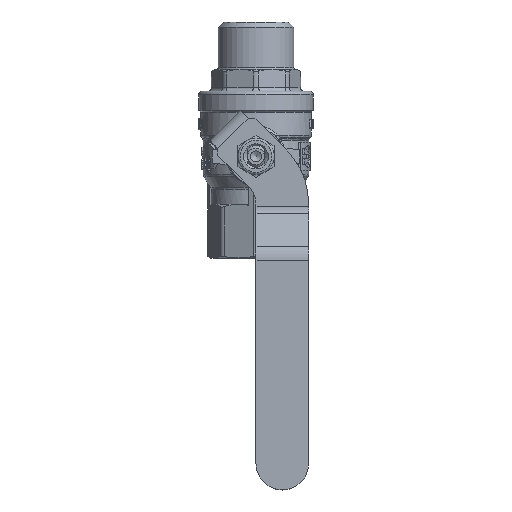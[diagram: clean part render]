
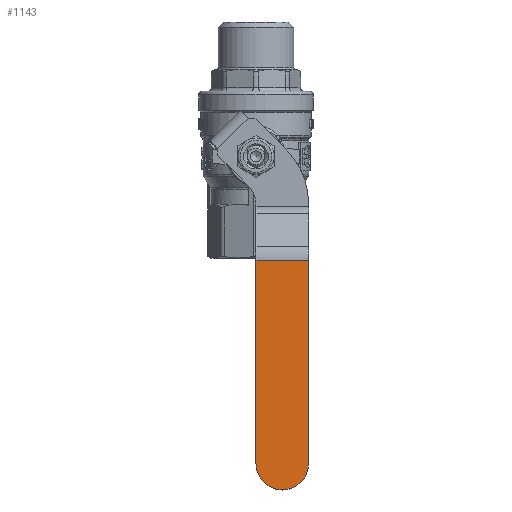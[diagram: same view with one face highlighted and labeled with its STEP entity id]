
A CAD part, top view. The second image highlights one B-rep face of the part: STEP entity #1143.
In plain terms, the highlighted planar face has unit normal (0, 0, 1).
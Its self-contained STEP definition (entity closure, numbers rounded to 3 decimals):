
#1143=ADVANCED_FACE('',(#9416),#9418,.T.);
#9416=FACE_BOUND('',#9417,.T.);
#9417=EDGE_LOOP('',(#17381,#17382,#17383,#17384));
#9418=PLANE('',#9419);
#9419=AXIS2_PLACEMENT_3D('',#9420,#9421,#9422);
#9420=CARTESIAN_POINT('',(0.,-11.525,43.177));
#9421=DIRECTION('',(0.,0.,1.));
#9422=DIRECTION('',(0.,-1.,0.));
#17381=ORIENTED_EDGE('',*,*,#21053,.F.);
#17382=ORIENTED_EDGE('',*,*,#21050,.T.);
#17383=ORIENTED_EDGE('',*,*,#21042,.T.);
#17384=ORIENTED_EDGE('',*,*,#21052,.T.);
#21042=EDGE_CURVE('',#26427,#26435,#26448,.T.);
#21050=EDGE_CURVE('',#26455,#26427,#26457,.T.);
#21052=EDGE_CURVE('',#26435,#26458,#26460,.T.);
#21053=EDGE_CURVE('',#26455,#26458,#26461,.F.);
#26427=VERTEX_POINT('',#49041);
#26435=VERTEX_POINT('',#49061);
#26448=LINE('',#49099,#49100);
#26455=VERTEX_POINT('',#49126);
#26457=LINE('',#49130,#49131);
#26458=VERTEX_POINT('',#49133);
#26460=LINE('',#49137,#49138);
#26461=CIRCLE('',#49140,7.25);
#49041=CARTESIAN_POINT('',(14.5,-44.198,43.177));
#49061=CARTESIAN_POINT('',(0.,-44.198,43.177));
#49099=CARTESIAN_POINT('',(14.5,-44.198,43.177));
#49100=VECTOR('',#49101,1.);
#49101=DIRECTION('',(-1.,0.,0.));
#49126=CARTESIAN_POINT('',(14.5,-100.268,43.177));
#49130=CARTESIAN_POINT('',(14.5,-100.268,43.177));
#49131=VECTOR('',#49132,1.);
#49132=DIRECTION('',(0.,1.,0.));
#49133=CARTESIAN_POINT('',(0.,-100.268,43.177));
#49137=CARTESIAN_POINT('',(0.,-44.198,43.177));
#49138=VECTOR('',#49139,1.);
#49139=DIRECTION('',(0.,-1.,0.));
#49140=AXIS2_PLACEMENT_3D('',#49141,#49142,#49143);
#49141=CARTESIAN_POINT('',(7.25,-100.268,43.177));
#49142=DIRECTION('',(0.,0.,1.));
#49143=DIRECTION('',(-1.,0.,0.));
